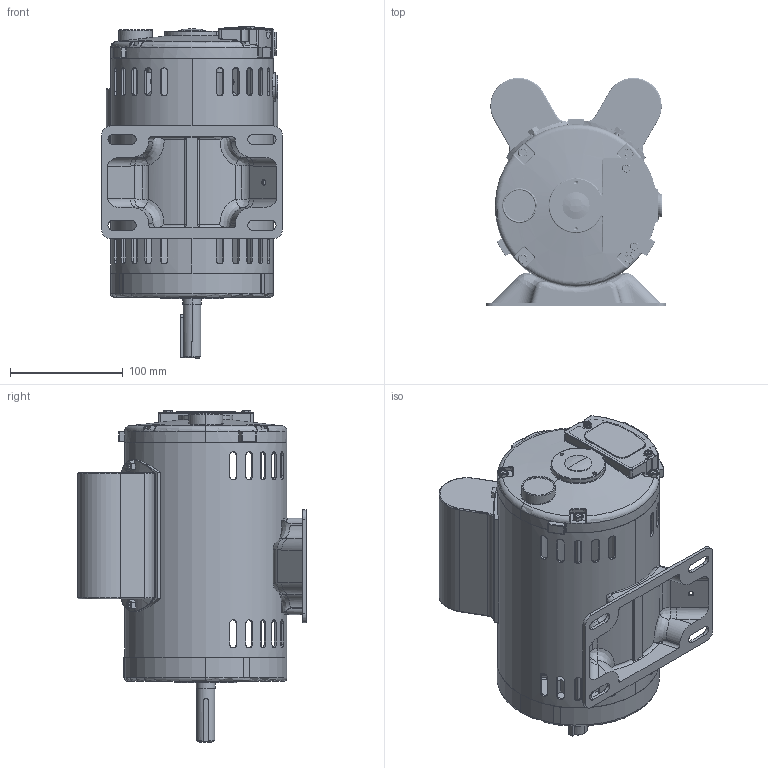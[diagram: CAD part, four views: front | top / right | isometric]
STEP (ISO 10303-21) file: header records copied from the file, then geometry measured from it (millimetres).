
FILE_DESCRIPTION (( 'STEP AP203' ), '1' );
FILE_NAME ('OPE 34-36-56（190）.STEP', '2025-03-04T04:19:37', ( 'User' ), ( 'China' ), 'SwSTEP 2.0', 'SolidWorks 2019', '' );
FILE_SCHEMA (( 'CONFIG_CONTROL_DESIGN' ));
Length unit declared in the file: millimetre
Products named in the file (5): OPE 34-36-56（190）; zt1; qiang; dij1; lg190
Assembly tree (7 placements, depth 2):
  OPE 34-36-56（190）
    zt1
    qiang
    dij1
    lg190  x4
Bounding box: 160 x 202.21 x 294.35 mm (x, y, z)
Volume: 661203.5 mm3; surface area: 506281.5 mm2
Topology: 27 solids, 29 shells, 2493 faces, 6436 edges, 4004 vertices
Faces by surface type: cylinder 1177, plane 571, bspline 323, torus 304, cone 87, sphere 31
Entity records: 93652 total; most frequent: CARTESIAN_POINT 44904, ORIENTED_EDGE 10642, DIRECTION 9364, EDGE_CURVE 5321, AXIS2_PLACEMENT_3D 3707, VERTEX_POINT 3316, EDGE_LOOP 2293, ADVANCED_FACE 2127
